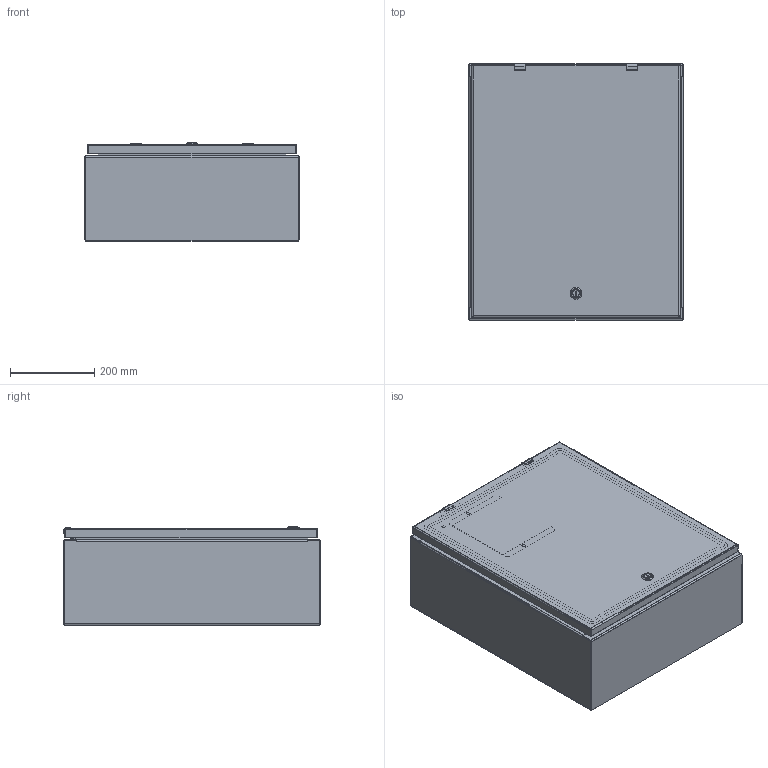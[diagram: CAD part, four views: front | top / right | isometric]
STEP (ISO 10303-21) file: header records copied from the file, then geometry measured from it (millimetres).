
FILE_DESCRIPTION((''),'2;1');
FILE_NAME('MODEL-308_ASM','2023-02-22T14:17:21',('johnh'),('SAGINAW CONTROL & ENGINEERING'),'CREO PARAMETRIC BY PTC INC, 2021284','CREO PARAMETRIC BY PTC INC, 2021284','');
FILE_SCHEMA(('AUTOMOTIVE_DESIGN { 1 0 10303 214 1 1 1 1 }'));
Length unit declared in the file: inch
Products named in the file (28): MODEL-308-BDY; MODEL-308-LS; MODEL-308-RS; MODEL-308-DR; 100837; 100882; 111541; 100794_SHAFT; 100794_INSERT; 100794_CAM; 100794_NUT; 100794_SCREW; 100794_ASM; MODEL-308-DOOR-GASKET; 126392; 126392_ASM; 126395; 102483; 101226; 101389; 102140; MODEL-308-DOOR-ASSY_ASM; 101653; 122191; SUBPANEL; 100904; SUBPANEL-SUBASSEMBLY_ASM; MODEL-308_ASM
Assembly tree (47 placements, depth 4):
  MODEL-308_ASM
    MODEL-308-BDY
    MODEL-308-LS
    MODEL-308-RS
    MODEL-308-DOOR-ASSY_ASM
      MODEL-308-DR
      100837  x3
      100882  x2
      111541
      100794_ASM
        100794_SHAFT
        100794_INSERT
        100794_CAM
        100794_NUT
        100794_SCREW
      MODEL-308-DOOR-GASKET
      126392_ASM  x2
        126392
      126395  x2
      102483  x6
      101226  x2
      101389  x2
      102140  x2
    100837
    101653  x4
    122191
    SUBPANEL-SUBASSEMBLY_ASM
      SUBPANEL
      100904  x4
Bounding box: 508 x 609.6 x 234.33 mm (x, y, z)
Volume: 3384340.6 mm3; surface area: 3099281.5 mm2
Topology: 44 solids, 44 shells, 2531 faces, 6445 edges, 4048 vertices
Faces by surface type: plane 1090, cylinder 672, bspline 432, torus 197, cone 88, sphere 52
Entity records: 81774 total; most frequent: CARTESIAN_POINT 23569, ORIENTED_EDGE 8402, DIRECTION 7842, PRESENTATION_STYLE_ASSIGNMENT 4398, EDGE_CURVE 4201, STYLED_ITEM 4123, CURVE_STYLE 4039, AXIS2_PLACEMENT_3D 2843
